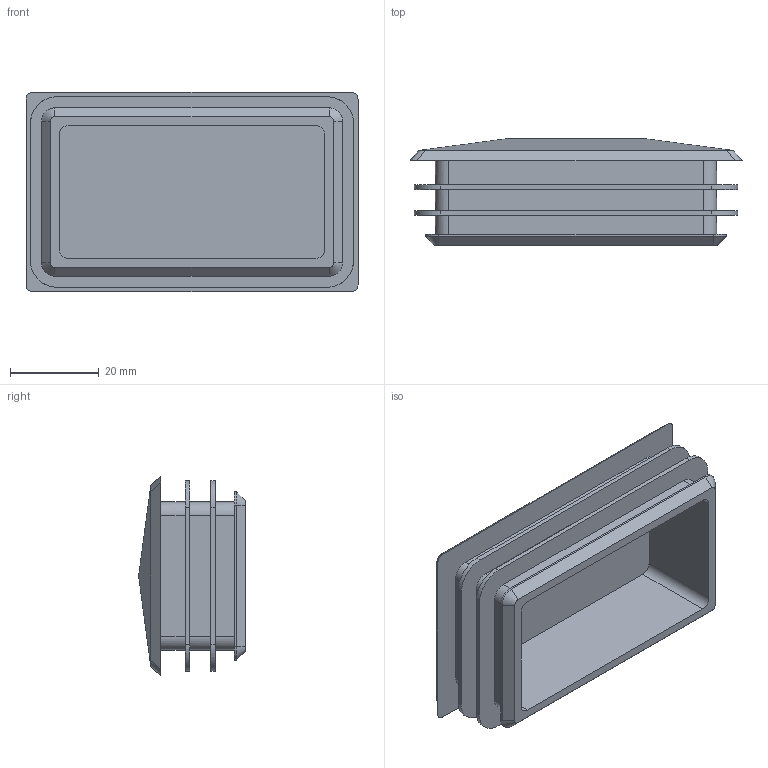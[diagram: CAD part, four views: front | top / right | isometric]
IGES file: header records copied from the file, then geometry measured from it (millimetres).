
Global section: file name: DR_PR4-4575-H; native system: Autodesk Inventor 2015; preprocessor: unknown; author: user; date: 20210129.170426; units: millimetre
Bounding box: 75 x 24.1 x 45 mm (x, y, z)
Volume: 19235.5 mm3; surface area: 18718 mm2
Topology: 1 solids, 1 shells, 84 faces, 217 edges, 142 vertices
Faces by surface type: bspline 84
